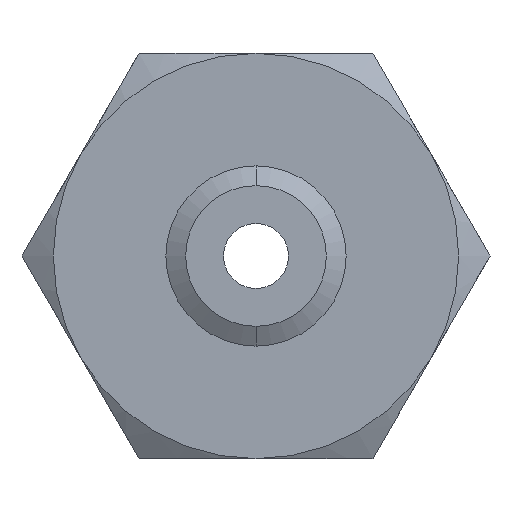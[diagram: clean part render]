
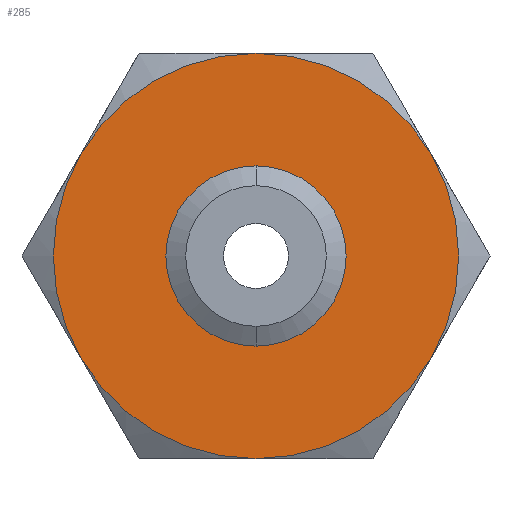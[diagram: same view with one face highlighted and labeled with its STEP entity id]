
A CAD part, front view. The second image highlights one B-rep face of the part: STEP entity #285.
In plain terms, the highlighted planar face has unit normal (0, -1, 0).
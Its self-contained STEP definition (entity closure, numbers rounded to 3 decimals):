
#139 = EDGE_CURVE ( 'NONE', #140, #141, #529, .T. ) ;
#140 = VERTEX_POINT ( 'NONE', #521 ) ;
#141 = VERTEX_POINT ( 'NONE', #520 ) ;
#227 = EDGE_CURVE ( 'NONE', #1649, #296, #731, .T. ) ;
#285 = ADVANCED_FACE ( 'NONE', ( #821, #820 ), #819, .F. ) ;
#286 = EDGE_LOOP ( 'NONE', ( #287, #291, #294, #297, #1645, #1643 ) ) ;
#287 = ORIENTED_EDGE ( 'NONE', *, *, #288, .F. ) ;
#288 = EDGE_CURVE ( 'NONE', #289, #290, #816, .T. ) ;
#289 = VERTEX_POINT ( 'NONE', #809 ) ;
#290 = VERTEX_POINT ( 'NONE', #808 ) ;
#291 = ORIENTED_EDGE ( 'NONE', *, *, #292, .F. ) ;
#292 = EDGE_CURVE ( 'NONE', #293, #289, #807, .T. ) ;
#293 = VERTEX_POINT ( 'NONE', #802 ) ;
#294 = ORIENTED_EDGE ( 'NONE', *, *, #295, .F. ) ;
#295 = EDGE_CURVE ( 'NONE', #296, #293, #801, .T. ) ;
#296 = VERTEX_POINT ( 'NONE', #796 ) ;
#297 = ORIENTED_EDGE ( 'NONE', *, *, #227, .F. ) ;
#520 = CARTESIAN_POINT ( 'NONE',  ( 0., 0., 8.673 ) ) ;
#521 = CARTESIAN_POINT ( 'NONE',  ( 0., 0., -8.673 ) ) ;
#522 = DIRECTION ( 'NONE',  ( 0., 0., -1. ) ) ;
#523 = DIRECTION ( 'NONE',  ( 0., -1., 0. ) ) ;
#524 = CARTESIAN_POINT ( 'NONE',  ( 0., 0., 0. ) ) ;
#525 = AXIS2_PLACEMENT_3D ( 'NONE', #524, #523, #522 ) ;
#529 = CIRCLE ( 'NONE', #525, 8.673 ) ;
#727 = DIRECTION ( 'NONE',  ( 0., 0., 1. ) ) ;
#728 = DIRECTION ( 'NONE',  ( 0., 1., 0. ) ) ;
#729 = CARTESIAN_POINT ( 'NONE',  ( 0., 0., 0. ) ) ;
#730 = AXIS2_PLACEMENT_3D ( 'NONE', #729, #728, #727 ) ;
#731 = CIRCLE ( 'NONE', #730, 25. ) ;
#796 = CARTESIAN_POINT ( 'NONE',  ( -21.651, 0., -12.5 ) ) ;
#797 = DIRECTION ( 'NONE',  ( 0., 0., 1. ) ) ;
#798 = DIRECTION ( 'NONE',  ( 0., 1., 0. ) ) ;
#799 = CARTESIAN_POINT ( 'NONE',  ( 0., 0., 0. ) ) ;
#800 = AXIS2_PLACEMENT_3D ( 'NONE', #799, #798, #797 ) ;
#801 = CIRCLE ( 'NONE', #800, 25. ) ;
#802 = CARTESIAN_POINT ( 'NONE',  ( -21.651, 0., 12.5 ) ) ;
#803 = DIRECTION ( 'NONE',  ( 0., 0., 1. ) ) ;
#804 = DIRECTION ( 'NONE',  ( 0., 1., 0. ) ) ;
#805 = CARTESIAN_POINT ( 'NONE',  ( 0., 0., 0. ) ) ;
#806 = AXIS2_PLACEMENT_3D ( 'NONE', #805, #804, #803 ) ;
#807 = CIRCLE ( 'NONE', #806, 25. ) ;
#808 = CARTESIAN_POINT ( 'NONE',  ( 21.651, 0., 12.5 ) ) ;
#809 = CARTESIAN_POINT ( 'NONE',  ( 0., 0., 25. ) ) ;
#810 = DIRECTION ( 'NONE',  ( 0., 0., 1. ) ) ;
#811 = DIRECTION ( 'NONE',  ( 0., 1., 0. ) ) ;
#812 = CARTESIAN_POINT ( 'NONE',  ( 0., 0., 0. ) ) ;
#813 = AXIS2_PLACEMENT_3D ( 'NONE', #812, #811, #810 ) ;
#814 = DIRECTION ( 'NONE',  ( 0., 0., 1. ) ) ;
#815 = DIRECTION ( 'NONE',  ( 0., 1., 0. ) ) ;
#816 = CIRCLE ( 'NONE', #813, 25. ) ;
#817 = CARTESIAN_POINT ( 'NONE',  ( 14.434, 0., -25. ) ) ;
#818 = AXIS2_PLACEMENT_3D ( 'NONE', #817, #815, #814 ) ;
#819 = PLANE ( 'NONE',  #818 ) ;
#820 = FACE_BOUND ( 'NONE', #1642, .T. ) ;
#821 = FACE_OUTER_BOUND ( 'NONE', #286, .T. ) ;
#882 = DIRECTION ( 'NONE',  ( 0., 0., 1. ) ) ;
#883 = DIRECTION ( 'NONE',  ( 0., 1., 0. ) ) ;
#884 = CARTESIAN_POINT ( 'NONE',  ( 0., 0., 0. ) ) ;
#885 = AXIS2_PLACEMENT_3D ( 'NONE', #884, #883, #882 ) ;
#886 = CIRCLE ( 'NONE', #885, 25. ) ;
#887 = CARTESIAN_POINT ( 'NONE',  ( 21.651, 0., -12.5 ) ) ;
#888 = DIRECTION ( 'NONE',  ( 0., 0., 1. ) ) ;
#889 = DIRECTION ( 'NONE',  ( 0., 1., 0. ) ) ;
#890 = CARTESIAN_POINT ( 'NONE',  ( 0., 0., 0. ) ) ;
#891 = AXIS2_PLACEMENT_3D ( 'NONE', #890, #889, #888 ) ;
#895 = CIRCLE ( 'NONE', #891, 25. ) ;
#900 = DIRECTION ( 'NONE',  ( 0., 0., -1. ) ) ;
#901 = DIRECTION ( 'NONE',  ( 0., -1., 0. ) ) ;
#902 = CARTESIAN_POINT ( 'NONE',  ( 0., 0., 0. ) ) ;
#903 = AXIS2_PLACEMENT_3D ( 'NONE', #902, #901, #900 ) ;
#904 = CIRCLE ( 'NONE', #903, 8.673 ) ;
#946 = CARTESIAN_POINT ( 'NONE',  ( 0., 0., -25. ) ) ;
#1634 = EDGE_CURVE ( 'NONE', #141, #140, #904, .T. ) ;
#1638 = ORIENTED_EDGE ( 'NONE', *, *, #1634, .F. ) ;
#1640 = ORIENTED_EDGE ( 'NONE', *, *, #139, .F. ) ;
#1642 = EDGE_LOOP ( 'NONE', ( #1640, #1638 ) ) ;
#1643 = ORIENTED_EDGE ( 'NONE', *, *, #1644, .F. ) ;
#1644 = EDGE_CURVE ( 'NONE', #290, #1646, #895, .T. ) ;
#1645 = ORIENTED_EDGE ( 'NONE', *, *, #1647, .F. ) ;
#1646 = VERTEX_POINT ( 'NONE', #887 ) ;
#1647 = EDGE_CURVE ( 'NONE', #1646, #1649, #886, .T. ) ;
#1649 = VERTEX_POINT ( 'NONE', #946 ) ;
